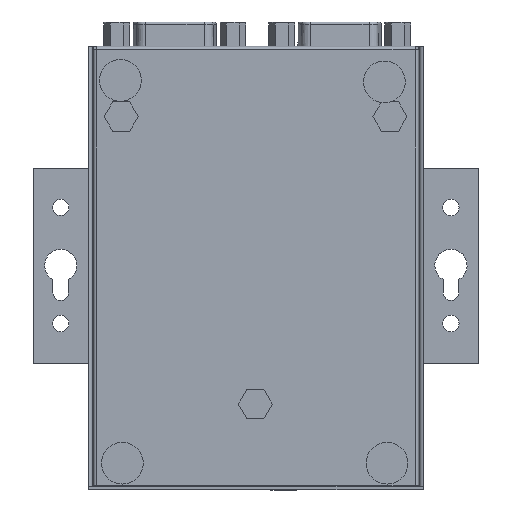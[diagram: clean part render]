
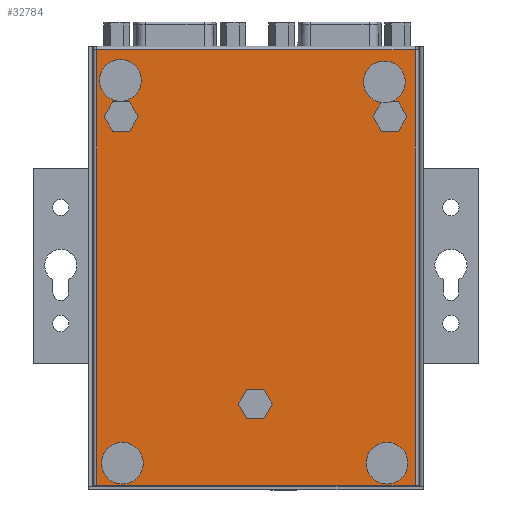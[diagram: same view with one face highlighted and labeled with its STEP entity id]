
A CAD part, front view. The second image highlights one B-rep face of the part: STEP entity #32784.
In plain terms, the highlighted planar face has unit normal (0, -1, 0).
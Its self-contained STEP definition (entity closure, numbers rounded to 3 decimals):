
#1331=PLANE('',#35003);
#2680=FACE_OUTER_BOUND('',#4541,.T.);
#4541=EDGE_LOOP('',(#23239,#23240,#23241,#23242));
#6593=LINE('',#47711,#10364);
#6601=LINE('',#47734,#10372);
#6623=LINE('',#47788,#10394);
#6625=LINE('',#47793,#10396);
#10364=VECTOR('',#37852,10.);
#10372=VECTOR('',#37882,10.);
#10394=VECTOR('',#37942,10.);
#10396=VECTOR('',#37950,10.);
#14801=VERTEX_POINT('',#47708);
#14802=VERTEX_POINT('',#47710);
#14805=VERTEX_POINT('',#47731);
#14806=VERTEX_POINT('',#47733);
#18052=EDGE_CURVE('',#14802,#14801,#6593,.T.);
#18064=EDGE_CURVE('',#14806,#14805,#6601,.T.);
#18093=EDGE_CURVE('',#14801,#14806,#6623,.T.);
#18095=EDGE_CURVE('',#14805,#14802,#6625,.T.);
#23239=ORIENTED_EDGE('',*,*,#18052,.T.);
#23240=ORIENTED_EDGE('',*,*,#18093,.T.);
#23241=ORIENTED_EDGE('',*,*,#18064,.T.);
#23242=ORIENTED_EDGE('',*,*,#18095,.T.);
#32784=ADVANCED_FACE('',(#2680),#1331,.F.);
#35003=AXIS2_PLACEMENT_3D('',#47811,#37969,#37970);
#37852=DIRECTION('',(0.,0.,1.));
#37882=DIRECTION('',(0.,0.,-1.));
#37942=DIRECTION('',(-1.,0.,0.));
#37950=DIRECTION('',(1.,0.,0.));
#37969=DIRECTION('center_axis',(0.,1.,0.));
#37970=DIRECTION('ref_axis',(1.,0.,0.));
#47708=CARTESIAN_POINT('',(68.295,-5.51,1.08));
#47710=CARTESIAN_POINT('',(68.295,-5.51,-92.77));
#47711=CARTESIAN_POINT('',(68.295,-5.51,-22.193));
#47731=CARTESIAN_POINT('',(-0.255,-5.51,-92.77));
#47733=CARTESIAN_POINT('',(-0.255,-5.51,1.08));
#47734=CARTESIAN_POINT('',(-0.255,-5.51,-69.118));
#47788=CARTESIAN_POINT('',(16.503,-5.51,1.08));
#47793=CARTESIAN_POINT('',(-1.015,-5.51,-92.77));
#47811=CARTESIAN_POINT('Origin',(34.02,-5.51,-45.465));
